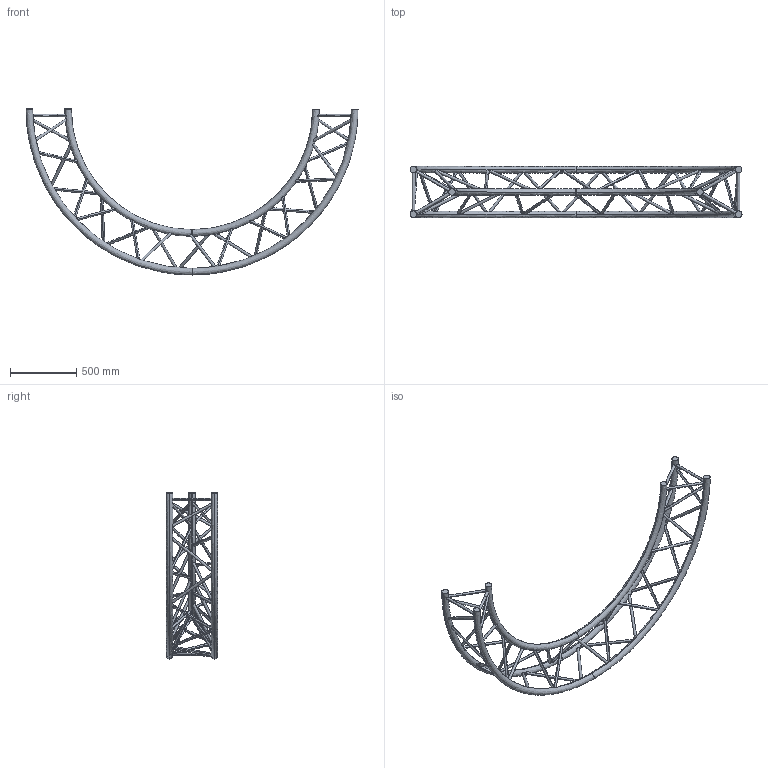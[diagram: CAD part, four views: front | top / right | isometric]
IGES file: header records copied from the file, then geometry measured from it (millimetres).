
Start section: SolidWorks IGES file using analytic representation for surfaces
Global section: file name: K:\BIBLIO\asd_biblio\SX390\Cercles\SXC39PI\SXC39250PI\SXC39250PI.IGS; native system: SolidWorks 2009; preprocessor: SolidWorks 2009; author: des3; date: 091021.134728; units: millimetre
Bounding box: 2500 x 387 x 1250 mm (x, y, z)
Surface area: 2628842.5 mm2 (no closed solid volume)
Topology: 0 solids, 0 shells, 108 faces, 7370 edges, 7370 vertices
Faces by surface type: revolution 90, bspline 18
